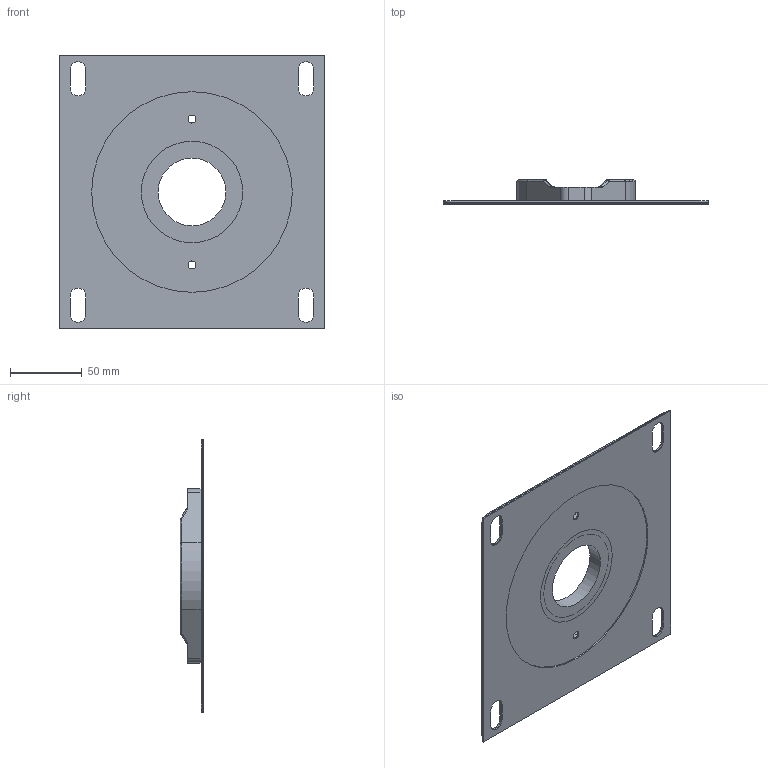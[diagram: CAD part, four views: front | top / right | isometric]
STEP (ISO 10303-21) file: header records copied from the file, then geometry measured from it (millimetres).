
FILE_DESCRIPTION (( 'STEP AP203' ), '1' );
FILE_NAME ('SLF-108P.STEP', '2015-01-21T14:43:03', ( '' ), ( '' ), 'SwSTEP 2.0', 'SolidWorks 2014', '' );
FILE_SCHEMA (( 'CONFIG_CONTROL_DESIGN' ));
Length unit declared in the file: inch
Products named in the file (1): SLF-108P
Bounding box: 184.15 x 16.64 x 190.5 mm (x, y, z)
Volume: 100941.9 mm3; surface area: 123184.1 mm2
Topology: 4 solids, 4 shells, 155 faces, 405 edges, 254 vertices
Faces by surface type: cylinder 80, plane 52, bspline 8, torus 7, cone 4, sphere 4
Entity records: 5093 total; most frequent: CARTESIAN_POINT 1131, DIRECTION 834, ORIENTED_EDGE 802, EDGE_CURVE 401, AXIS2_PLACEMENT_3D 309, VERTEX_POINT 254, VECTOR 216, LINE 216
